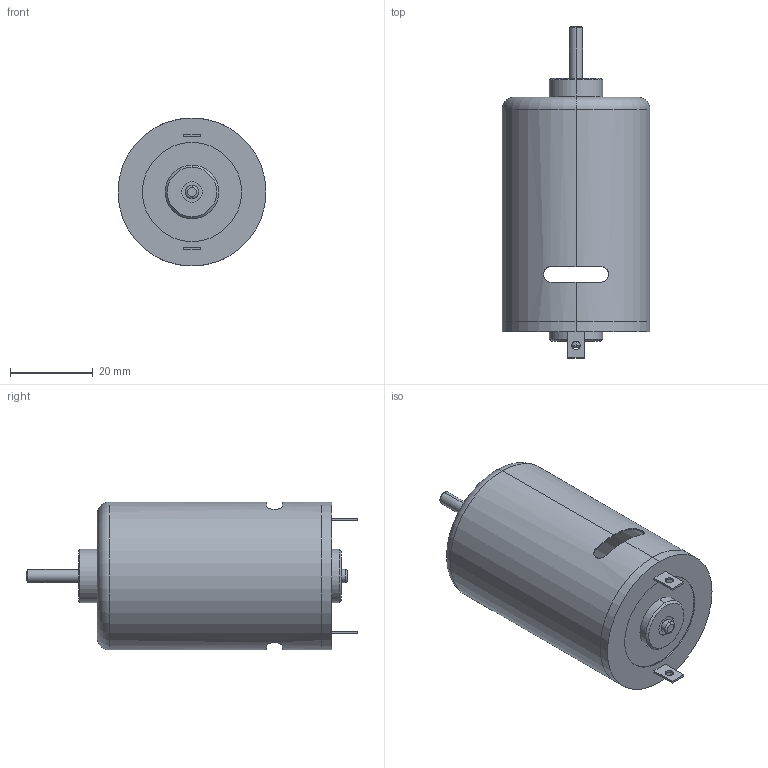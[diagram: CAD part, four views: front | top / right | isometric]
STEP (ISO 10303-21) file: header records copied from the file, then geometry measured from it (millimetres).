
FILE_DESCRIPTION (( 'STEP AP203' ), '1' );
FILE_NAME ('MOT-001 - M 710=2023.STEP', '2023-10-30T12:57:06', ( '' ), ( '' ), 'SwSTEP 2.0', 'SolidWorks 2022', '' );
FILE_SCHEMA (( 'CONFIG_CONTROL_DESIGN' ));
Length unit declared in the file: millimetre
Products named in the file (1): MOT-001 - M 710=2023
Bounding box: 35.8 x 80.3 x 35.8 mm (x, y, z)
Volume: 4492.8 mm3; surface area: 16492.9 mm2
Topology: 3 solids, 3 shells, 118 faces, 286 edges, 184 vertices
Faces by surface type: cylinder 66, plane 32, cone 14, torus 6
Entity records: 3825 total; most frequent: CARTESIAN_POINT 809, DIRECTION 674, ORIENTED_EDGE 572, EDGE_CURVE 286, AXIS2_PLACEMENT_3D 281, VERTEX_POINT 184, CIRCLE 162, EDGE_LOOP 150
